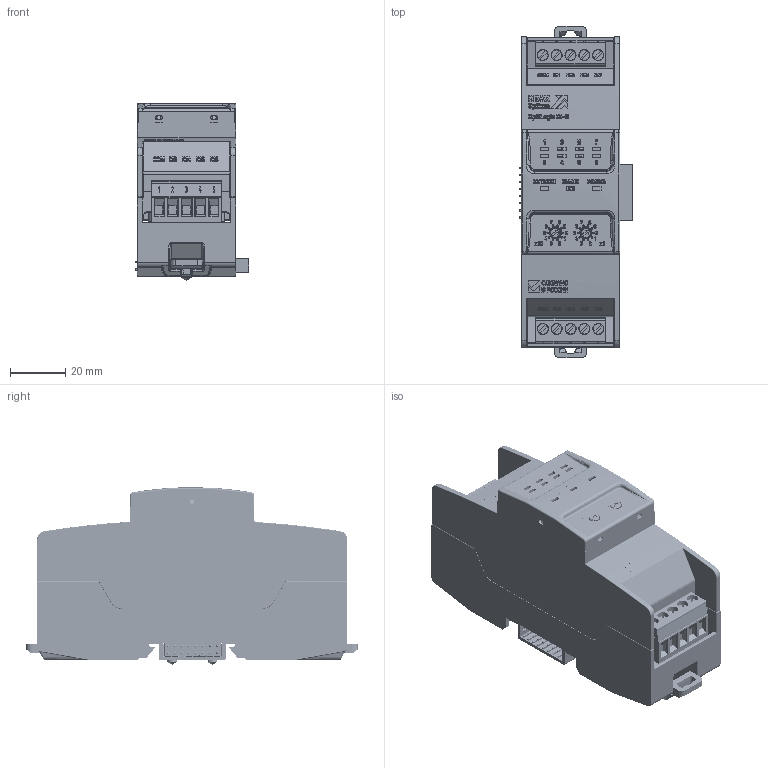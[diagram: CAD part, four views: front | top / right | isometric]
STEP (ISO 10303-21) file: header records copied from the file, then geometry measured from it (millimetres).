
FILE_DESCRIPTION (( 'STEP AP214' ), '1' );
FILE_NAME ('DI-8.STEP', '2020-11-06T07:07:03', ( '' ), ( '' ), 'SwSTEP 2.0', 'SolidWorks 2018', '' );
FILE_SCHEMA (( 'AUTOMOTIVE_DESIGN' ));
Length unit declared in the file: millimetre
Products named in the file (1): DI-8
Bounding box: 40.96 x 119.88 x 64.12 mm (x, y, z)
Volume: 62454.2 mm3; surface area: 69424.8 mm2
Topology: 9 solids, 9 shells, 7468 faces, 18997 edges, 11742 vertices
Faces by surface type: plane 3837, cylinder 1815, bspline 1159, torus 357, sphere 230, cone 70
Full cylindrical faces by diameter (mm): 0.5 x20, 0.609 x2, 1 x32, 1.1 x2, 1.2 x16, 1.4 x10, 1.5 x6, 2.2 x4, 2.8 x8, 3.5 x4, 3.783 x10, 4 x18, 5.5 x4, 6 x4, 7 x2
Entity records: 261524 total; most frequent: CARTESIAN_POINT 92779, ORIENTED_EDGE 37218, DIRECTION 31057, EDGE_CURVE 18609, VERTEX_POINT 11689, VECTOR 10641, LINE 10641, AXIS2_PLACEMENT_3D 10208
